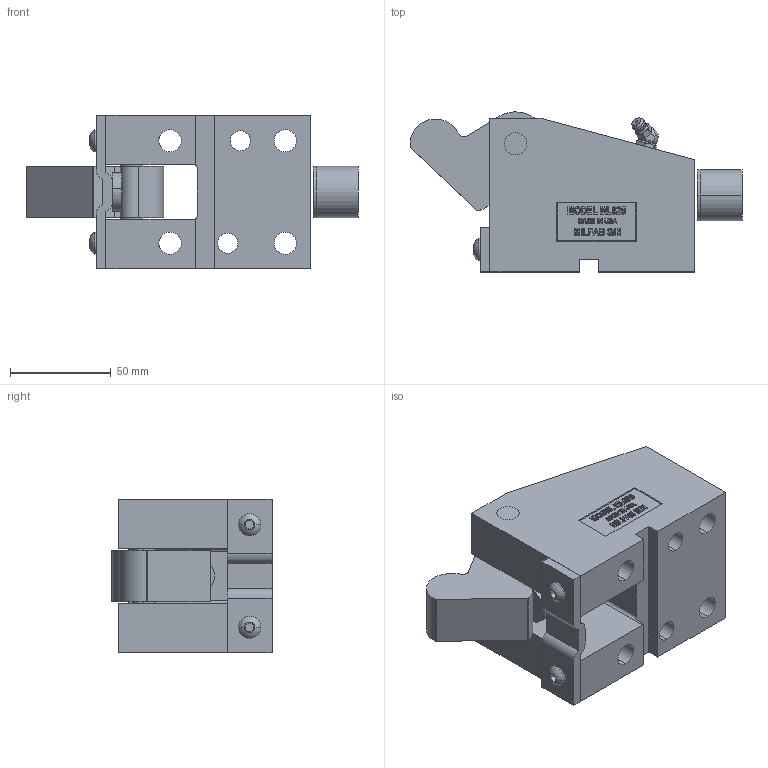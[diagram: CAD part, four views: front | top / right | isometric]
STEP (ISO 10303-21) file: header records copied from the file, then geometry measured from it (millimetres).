
FILE_DESCRIPTION (( 'STEP AP214' ), '1' );
FILE_NAME ('ML62545-O.STEP', '2014-01-07T20:31:01', ( 'user' ), ( '' ), 'SwSTEP 2.0', 'SolidWorks 2009', '' );
FILE_SCHEMA (( 'AUTOMOTIVE_DESIGN' ));
Length unit declared in the file: inch
Products named in the file (1): ML62545-O
Bounding box: 164.51 x 79.37 x 76.2 mm (x, y, z)
Surface area: 78314 mm2 (no closed solid volume)
Topology: 0 solids, 11 shells, 466 faces, 1466 edges, 987 vertices
Faces by surface type: plane 272, bspline 83, cylinder 77, torus 16, cone 14, sphere 4
Entity records: 27247 total; most frequent: CARTESIAN_POINT 8968, ORIENTED_EDGE 2569, DIRECTION 2158, EDGE_CURVE 1464, VERTEX_POINT 987, VECTOR 970, LINE 970, AXIS2_PLACEMENT_3D 594
